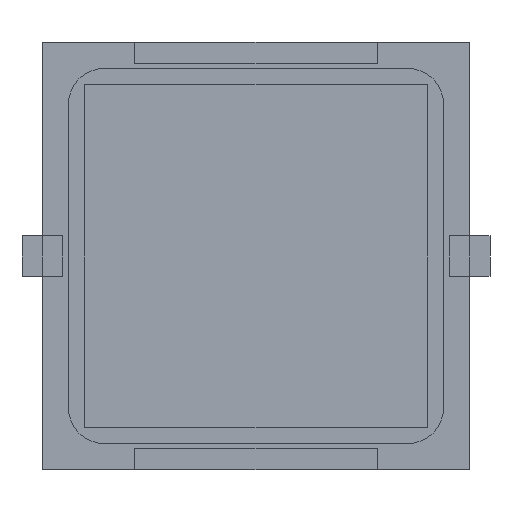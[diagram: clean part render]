
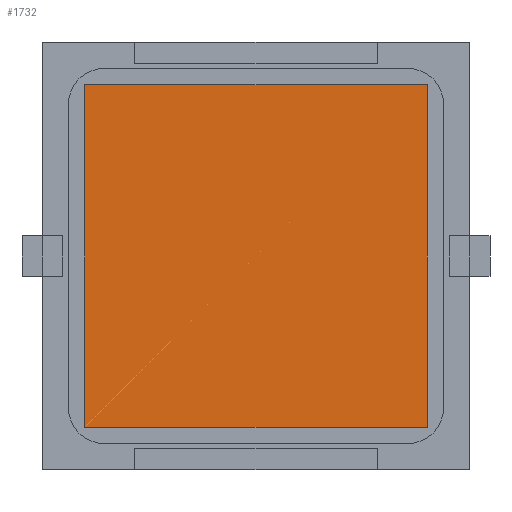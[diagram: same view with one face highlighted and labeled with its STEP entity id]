
A CAD part, front view. The second image highlights one B-rep face of the part: STEP entity #1732.
In plain terms, the highlighted planar face has unit normal (0, -1, 0).
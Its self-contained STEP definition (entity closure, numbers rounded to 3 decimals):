
#109 = FACE_OUTER_BOUND ( 'NONE', #3478, .T. ) ;
#432 = ORIENTED_EDGE ( 'NONE', *, *, #912, .F. ) ;
#444 = ORIENTED_EDGE ( 'NONE', *, *, #1085, .F. ) ;
#878 = VERTEX_POINT ( 'NONE', #2496 ) ;
#912 = EDGE_CURVE ( 'NONE', #3773, #878, #3273, .T. ) ;
#933 = CARTESIAN_POINT ( 'NONE',  ( 8.5, -0.1, -8.5 ) ) ;
#1085 = EDGE_CURVE ( 'NONE', #878, #2372, #3133, .T. ) ;
#1208 = CARTESIAN_POINT ( 'NONE',  ( -8.5, -0.1, 8.5 ) ) ;
#1732 = ADVANCED_FACE ( 'NONE', ( #109 ), #3430, .F. ) ;
#1889 = VECTOR ( 'NONE', #2509, 1000. ) ;
#2146 = LINE ( 'NONE', #2603, #3016 ) ;
#2365 = VERTEX_POINT ( 'NONE', #4302 ) ;
#2372 = VERTEX_POINT ( 'NONE', #933 ) ;
#2436 = CARTESIAN_POINT ( 'NONE',  ( -8.5, -0.1, 8.5 ) ) ;
#2496 = CARTESIAN_POINT ( 'NONE',  ( 8.5, -0.1, 8.5 ) ) ;
#2509 = DIRECTION ( 'NONE',  ( 1., 0., 0. ) ) ;
#2603 = CARTESIAN_POINT ( 'NONE',  ( -8.5, -0.1, -8.5 ) ) ;
#2609 = CARTESIAN_POINT ( 'NONE',  ( -8.5, -0.1, 8.5 ) ) ;
#3016 = VECTOR ( 'NONE', #4466, 1000. ) ;
#3018 = DIRECTION ( 'NONE',  ( 0., 1., 0. ) ) ;
#3133 = LINE ( 'NONE', #4638, #3602 ) ;
#3214 = DIRECTION ( 'NONE',  ( 0., 0., -1. ) ) ;
#3260 = ORIENTED_EDGE ( 'NONE', *, *, #4799, .F. ) ;
#3273 = LINE ( 'NONE', #2436, #1889 ) ;
#3280 = CARTESIAN_POINT ( 'NONE',  ( -8.5, -0.1, -8.5 ) ) ;
#3430 = PLANE ( 'NONE',  #4661 ) ;
#3437 = DIRECTION ( 'NONE',  ( 0., 0., 1. ) ) ;
#3478 = EDGE_LOOP ( 'NONE', ( #3260, #3621, #444, #432 ) ) ;
#3602 = VECTOR ( 'NONE', #3214, 1000. ) ;
#3621 = ORIENTED_EDGE ( 'NONE', *, *, #4071, .F. ) ;
#3773 = VERTEX_POINT ( 'NONE', #2609 ) ;
#3790 = VECTOR ( 'NONE', #3437, 1000. ) ;
#4071 = EDGE_CURVE ( 'NONE', #2372, #2365, #2146, .T. ) ;
#4302 = CARTESIAN_POINT ( 'NONE',  ( -8.5, -0.1, -8.5 ) ) ;
#4466 = DIRECTION ( 'NONE',  ( -1., 0., 0. ) ) ;
#4492 = DIRECTION ( 'NONE',  ( 0., 0., 1. ) ) ;
#4498 = LINE ( 'NONE', #3280, #3790 ) ;
#4638 = CARTESIAN_POINT ( 'NONE',  ( 8.5, -0.1, -8.5 ) ) ;
#4661 = AXIS2_PLACEMENT_3D ( 'NONE', #1208, #3018, #4492 ) ;
#4799 = EDGE_CURVE ( 'NONE', #2365, #3773, #4498, .T. ) ;
